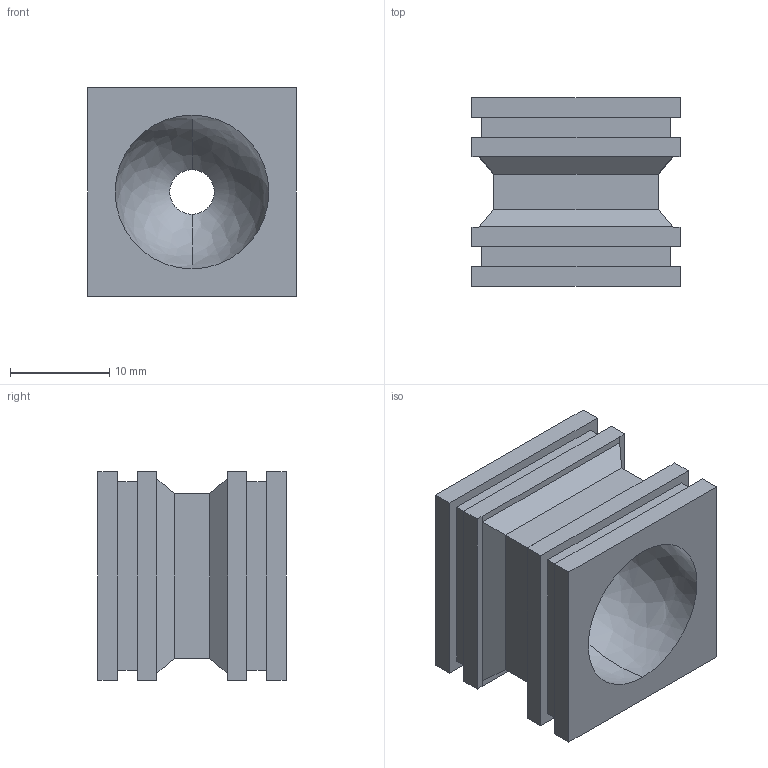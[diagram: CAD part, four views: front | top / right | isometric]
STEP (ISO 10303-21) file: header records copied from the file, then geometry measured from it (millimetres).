
FILE_DESCRIPTION (( 'STEP AP203' ), '1' );
FILE_NAME ('042565 KTP-A.STEP', '2023-03-07T07:10:11', ( '' ), ( '' ), 'SwSTEP 2.0', 'SolidWorks 2016', '' );
FILE_SCHEMA (( 'CONFIG_CONTROL_DESIGN' ));
Length unit declared in the file: millimetre
Products named in the file (1): 042565 KTP-A
Bounding box: 21 x 19 x 21 mm (x, y, z)
Volume: 4633.2 mm3; surface area: 3418.2 mm2
Topology: 1 solids, 1 shells, 54 faces, 134 edges, 86 vertices
Faces by surface type: plane 50, bspline 2, cylinder 2
Entity records: 1669 total; most frequent: CARTESIAN_POINT 311, ORIENTED_EDGE 268, DIRECTION 244, EDGE_CURVE 134, VECTOR 126, LINE 126, VERTEX_POINT 86, EDGE_LOOP 60
